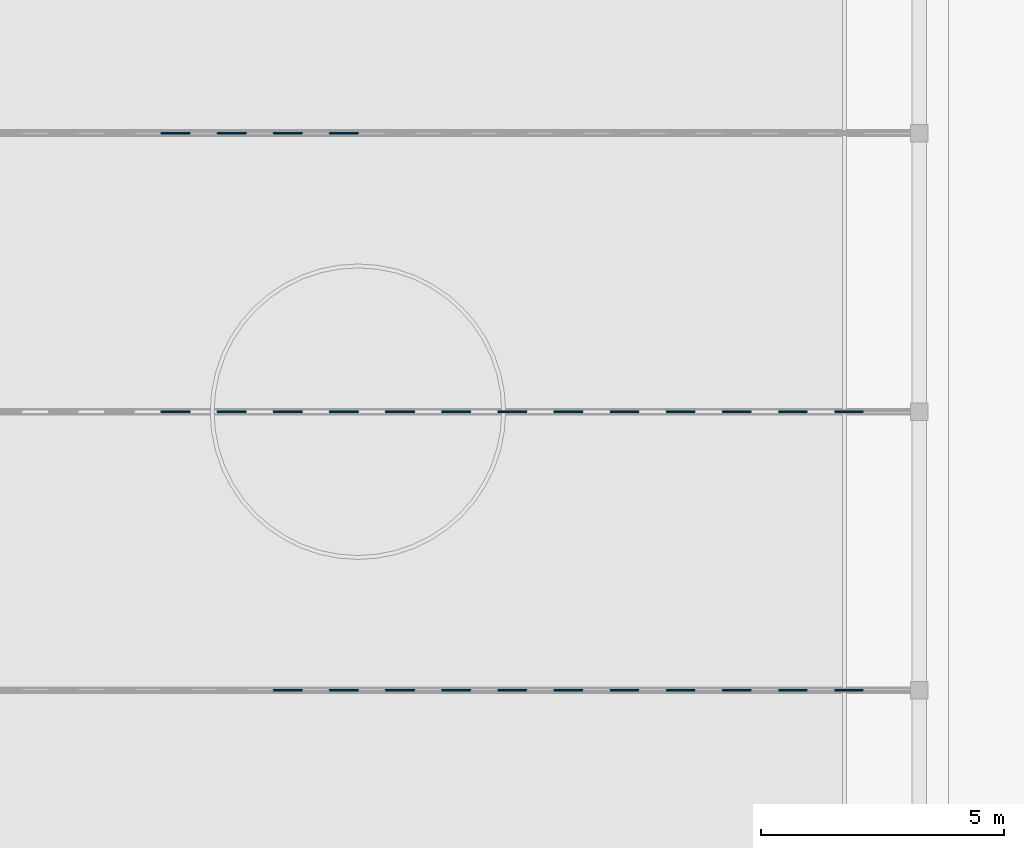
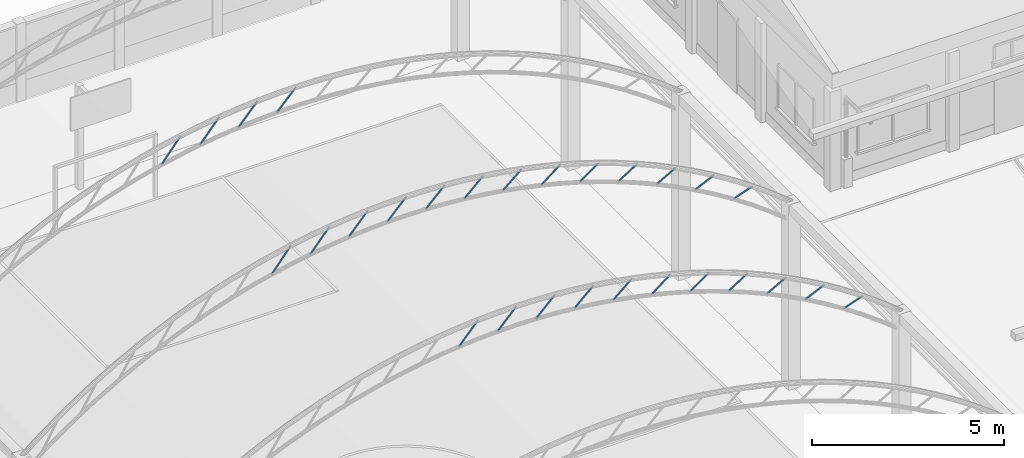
# One storey, part 36 of 177: 28 beams.
"""IFC4 building model written with IfcOpenShell, lengths in metres."""

import ifcopenshell
import ifcopenshell.guid

model = None  # the IFC model being written
_history = None  # IfcOwnerHistory: only IFC2X3 demands one
_inside = {}  # id of a spatial element -> (the spatial element, [elements in it])
_under = {}  # id of a project, library or spatial element -> (it, [spatial elements below it])
_declared = {}  # id of a project -> (the project, [libraries it declares])
_typed = {}  # id of a type object -> (the type object, [elements of that type])
_made_of = {}  # id of a material, layer set ... -> (it, [elements and type objects made of it])


def new_model(schema):
    """Start an empty IFC model of exactly this schema.

    Asked for "IFC4X3", IfcOpenShell would pick the latest addendum, in which some entities
    have other attributes; the version numbers below select the first issue.
    IFC2X3 requires an IfcOwnerHistory on every rooted entity: one is made here for all.
    """
    global model, _history
    if schema == "IFC4X3":
        model = ifcopenshell.file(schema_version=(4, 3, 0, 0))
    else:
        model = ifcopenshell.file(schema=schema)
    _inside.clear()
    _under.clear()
    _declared.clear()
    _typed.clear()
    _made_of.clear()
    _history = None
    if model.schema == "IFC2X3":
        org = make("IfcOrganization", Name="unknown")
        user = make(
            "IfcPersonAndOrganization",
            ThePerson=make("IfcPerson", FamilyName="unknown"),
            TheOrganization=org,
        )
        app = make(
            "IfcApplication",
            ApplicationDeveloper=org,
            Version="unknown",
            ApplicationFullName="unknown",
            ApplicationIdentifier="unknown",
        )
        _history = make(
            "IfcOwnerHistory",
            OwningUser=user,
            OwningApplication=app,
            ChangeAction="ADDED",
            CreationDate=0,
        )
    return model


def make(cls, **values):
    """One entity of the class cls with the attributes given. An attribute that is None is left unset."""
    return model.create_entity(
        cls, **{name: value for name, value in values.items() if value is not None}
    )


def rooted(cls, **values):
    """An entity with a GlobalId (a new one), such as an element, a storey or a relation."""
    return make(cls, GlobalId=ifcopenshell.guid.new(), OwnerHistory=_history, **values)


def si_unit(unit_type, name, prefix=None):
    """IfcSIUnit, for example si_unit("LENGTHUNIT", "METRE", prefix="MILLI")."""
    return make("IfcSIUnit", UnitType=unit_type, Prefix=prefix, Name=name)


def assignment(units):
    """IfcUnitAssignment: the units of a project."""
    return None if units is None else make("IfcUnitAssignment", Units=units)


def point(xyz):
    """IfcCartesianPoint."""
    return None if xyz is None else make("IfcCartesianPoint", Coordinates=xyz)


def direction(xyz):
    """IfcDirection."""
    return None if xyz is None else make("IfcDirection", DirectionRatios=xyz)


def frame(location, z_axis=None, x_axis=None):
    """IfcAxis2Placement3D, a coordinate frame: its origin and axes. An axis left out is left unset."""
    return make(
        "IfcAxis2Placement3D",
        Location=point(location),
        Axis=direction(z_axis),
        RefDirection=direction(x_axis),
    )


def origin():
    """The frame at (0, 0, 0) with its axes left unset."""
    return frame((0.0, 0.0, 0.0))


def origin_with_axes():
    """The frame at (0, 0, 0) with the z axis (0, 0, 1) and the x axis (1, 0, 0) written out."""
    return frame((0.0, 0.0, 0.0), z_axis=(0.0, 0.0, 1.0), x_axis=(1.0, 0.0, 0.0))


def place(relative_to, where):
    """IfcLocalPlacement: puts the frame where relative to a parent placement (None: the world)."""
    return make(
        "IfcLocalPlacement", PlacementRelTo=relative_to, RelativePlacement=where
    )


def context(
    kind, dimensions, precision=None, world=None, true_north=None, identifier=None
):
    """IfcGeometricRepresentationContext, for example the 3D "Model" context."""
    return make(
        "IfcGeometricRepresentationContext",
        ContextIdentifier=identifier,
        ContextType=kind,
        CoordinateSpaceDimension=dimensions,
        Precision=precision,
        WorldCoordinateSystem=world,
        TrueNorth=true_north,
    )


def subcontext(parent, identifier, kind, view, scale=None):
    """IfcGeometricRepresentationSubContext, for example "Body" below "Model"."""
    return make(
        "IfcGeometricRepresentationSubContext",
        ContextIdentifier=identifier,
        ContextType=kind,
        ParentContext=parent,
        TargetScale=scale,
        TargetView=view,
    )


def project(units=None, contexts=None):
    """IfcProject with its units and contexts."""
    return rooted(
        "IfcProject",
        Name="project",
        RepresentationContexts=contexts,
        UnitsInContext=assignment(units),
    )


def spatial(cls, under=None, at=None, **own):
    """A site, building, storey or space (cls), placed at a placement, below another one or the project."""
    s = rooted(cls, ObjectPlacement=at, **own)
    if under is not None:
        _under.setdefault(under.id(), (under, []))[1].append(s)
    return s


def point_list(points):
    """IfcCartesianPointList2D or 3D."""
    cls = (
        "IfcCartesianPointList2D" if len(points[0]) == 2 else "IfcCartesianPointList3D"
    )
    return make(cls, CoordList=points)


def triangles(points, corners, closed=None, point_numbers=None):
    """IfcTriangulatedFaceSet: each triangle names its three corners, points numbered from 1."""
    return make(
        "IfcTriangulatedFaceSet",
        Coordinates=point_list(points),
        Closed=closed,
        CoordIndex=corners,
        PnIndex=point_numbers,
    )


def shape(context_of_items, identifier, shape_type, items):
    """IfcShapeRepresentation: the items that make up one representation, for example the "Body"."""
    return make(
        "IfcShapeRepresentation",
        ContextOfItems=context_of_items,
        RepresentationIdentifier=identifier,
        RepresentationType=shape_type,
        Items=items,
    )


def made_of(thing, what):
    """Note that an element or type object is made of a material, layer set ...; save() writes the relation."""
    if what is not None:
        _made_of.setdefault(what.id(), (what, []))[1].append(thing)
    return thing


def element(
    cls,
    number,
    at=None,
    inside=None,
    cuts=None,
    type_object=None,
    material=None,
    context=None,
    identifier="Body",
    shape_type=None,
    held_by="IfcProductDefinitionShape",
    body=None,
    shapes=None,
    **own,
):
    """One element of the class cls, such as IfcWall. Its Tag is "e" and its number.

    at: its placement. inside: the storey or other place that contains it. cuts: it is an
    opening in that element (IfcRelVoidsElement). A single representation is given by context,
    identifier, shape_type and body (its items); several are given by shapes. held_by: the class
    of the entity that holds the representations. save() writes the other relations.
    """
    e = rooted(cls, Tag="e%d" % number, ObjectPlacement=at, **own)
    if body is not None:
        shapes = [shape(context, identifier, shape_type, body)]
    if shapes is not None:
        e.Representation = make(held_by, Representations=shapes)
    if inside is not None:
        _inside.setdefault(inside.id(), (inside, []))[1].append(e)
    if cuts is not None:
        rooted(
            "IfcRelVoidsElement", RelatingBuildingElement=cuts, RelatedOpeningElement=e
        )
    if type_object is not None:
        _typed.setdefault(type_object.id(), (type_object, []))[1].append(e)
    return made_of(e, material)


def aggregate(whole, parts):
    """IfcRelAggregates: a whole, such as a stair, and the parts it consists of."""
    return rooted("IfcRelAggregates", RelatingObject=whole, RelatedObjects=parts)


def save(model, path):
    """Write the relations noted so far, then the file.

    IfcRelAggregates (storeys below a building ...), IfcRelContainedInSpatialStructure (elements
    in a storey), IfcRelDefinesByType, IfcRelAssociatesMaterial and IfcRelDeclares: one each for
    every whole, place, type object, material and project.
    """
    for whole, parts in _under.values():
        aggregate(whole, parts)
    for where, things in _inside.values():
        rooted(
            "IfcRelContainedInSpatialStructure",
            RelatedElements=things,
            RelatingStructure=where,
        )
    for kind, things in _typed.values():
        rooted("IfcRelDefinesByType", RelatedObjects=things, RelatingType=kind)
    for what, things in _made_of.values():
        rooted("IfcRelAssociatesMaterial", RelatedObjects=things, RelatingMaterial=what)
    for by, libraries in _declared.values():
        rooted("IfcRelDeclares", RelatingContext=by, RelatedDefinitions=libraries)
    model.write(path)


model = new_model("IFC4")

# Units and contexts
model_context = context("Model", 3, precision=1e-05, world=origin_with_axes())
body_context = subcontext(model_context, "Body", "Model", "MODEL_VIEW")
ifc_project = project(units=[si_unit("LENGTHUNIT", "METRE"), si_unit("AREAUNIT", "SQUARE_METRE"), si_unit("VOLUMEUNIT", "CUBIC_METRE"), si_unit("PLANEANGLEUNIT", "RADIAN")], contexts=[model_context])

# Site, building, storey
site_placement = place(None, origin_with_axes())
site = spatial("IfcSite", under=ifc_project, at=site_placement, Name="Predio Los Mangos - Morales, San Martín", CompositionType="ELEMENT")
building_placement = place(site_placement, origin())
building = spatial("IfcBuilding", under=site, at=building_placement, Name="Hogar de Refugio Temporal", CompositionType="ELEMENT")
storey_placement = place(building_placement, origin())
storey = spatial("IfcBuildingStorey", under=building, at=storey_placement, Name="NIVEL 1 (NPT +0.00)", CompositionType="ELEMENT", Elevation=0.0)

# Beams
beam_1_placement = place(storey_placement, origin())
element("IfcBeam", 1, at=beam_1_placement, inside=storey, Name="diag", ObjectType="Viga", PredefinedType="BEAM", context=body_context, shape_type="Tessellation", body=[
    triangles([(13.3082, 104.0883, 9.4747), (13.3014, 104.0792, 9.4808), (13.2989, 104.0667, 9.483), (13.3014, 104.0542, 9.4808), (13.3082, 104.045, 9.4747), (13.3175, 104.0417, 9.4663), (13.3268, 104.045, 9.458), (13.3336, 104.0542, 9.4519), (13.3361, 104.0667, 9.4497), (13.3336, 104.0792, 9.4519), (13.3268, 104.0883, 9.458), (13.3175, 104.0917, 9.4663), (13.8857, 104.0883, 10.1212), (13.8789, 104.0792, 10.1273), (13.8764, 104.0667, 10.1295), (13.8789, 104.0542, 10.1273), (13.8857, 104.045, 10.1212), (13.895, 104.0417, 10.1129), (13.9043, 104.045, 10.1045), (13.9111, 104.0542, 10.0984), (13.9136, 104.0667, 10.0962), (13.9111, 104.0792, 10.0984), (13.9043, 104.0883, 10.1045), (13.895, 104.0917, 10.1129)], [[1, 13, 24], [1, 24, 12], [2, 14, 13], [2, 13, 1], [3, 15, 14], [3, 14, 2], [4, 16, 15], [4, 15, 3], [5, 17, 16], [5, 16, 4], [6, 18, 17], [6, 17, 5], [7, 19, 18], [7, 18, 6], [8, 20, 19], [8, 19, 7], [9, 21, 20], [9, 20, 8], [10, 22, 21], [10, 21, 9], [11, 23, 22], [11, 22, 10], [12, 24, 23], [12, 23, 11]]),
])
beam_2_placement = place(storey_placement, origin())
element("IfcBeam", 2, at=beam_2_placement, inside=storey, Name="diag", ObjectType="Viga", PredefinedType="BEAM", context=body_context, shape_type="Tessellation", body=[
    triangles([(14.4634, 104.0883, 9.5493), (14.4568, 104.0792, 9.5556), (14.4544, 104.0667, 9.5579), (14.4568, 104.0542, 9.5556), (14.4634, 104.045, 9.5493), (14.4725, 104.0417, 9.5407), (14.4816, 104.045, 9.5321), (14.4882, 104.0542, 9.5258), (14.4906, 104.0667, 9.5235), (14.4882, 104.0792, 9.5258), (14.4816, 104.0883, 9.5321), (14.4725, 104.0917, 9.5407), (15.0409, 104.0883, 10.1586), (15.0343, 104.0792, 10.1649), (15.0319, 104.0667, 10.1672), (15.0343, 104.0542, 10.1649), (15.0409, 104.045, 10.1586), (15.05, 104.0417, 10.15), (15.0591, 104.045, 10.1414), (15.0657, 104.0542, 10.1351), (15.0681, 104.0667, 10.1328), (15.0657, 104.0792, 10.1351), (15.0591, 104.0883, 10.1414), (15.05, 104.0917, 10.15)], [[1, 13, 24], [1, 24, 12], [2, 14, 13], [2, 13, 1], [3, 15, 14], [3, 14, 2], [4, 16, 15], [4, 15, 3], [5, 17, 16], [5, 16, 4], [6, 18, 17], [6, 17, 5], [7, 19, 18], [7, 18, 6], [8, 20, 19], [8, 19, 7], [9, 21, 20], [9, 20, 8], [10, 22, 21], [10, 21, 9], [11, 23, 22], [11, 22, 10], [12, 24, 23], [12, 23, 11]]),
])
beam_3_placement = place(storey_placement, origin())
element("IfcBeam", 3, at=beam_3_placement, inside=storey, Name="diag", ObjectType="Viga", PredefinedType="BEAM", context=body_context, shape_type="Tessellation", body=[
    triangles([(15.6187, 104.0883, 9.5496), (15.6123, 104.0792, 9.5561), (15.6099, 104.0667, 9.5585), (15.6123, 104.0542, 9.5561), (15.6187, 104.045, 9.5496), (15.6275, 104.0417, 9.5407), (15.6363, 104.045, 9.5318), (15.6427, 104.0542, 9.5253), (15.6451, 104.0667, 9.523), (15.6427, 104.0792, 9.5253), (15.6363, 104.0883, 9.5318), (15.6275, 104.0917, 9.5407), (16.1962, 104.0883, 10.1217), (16.1898, 104.0792, 10.1282), (16.1874, 104.0667, 10.1306), (16.1898, 104.0542, 10.1282), (16.1962, 104.045, 10.1217), (16.205, 104.0417, 10.1129), (16.2138, 104.045, 10.104), (16.2202, 104.0542, 10.0975), (16.2226, 104.0667, 10.0951), (16.2202, 104.0792, 10.0975), (16.2138, 104.0883, 10.104), (16.205, 104.0917, 10.1129)], [[1, 13, 24], [1, 24, 12], [2, 14, 13], [2, 13, 1], [3, 15, 14], [3, 14, 2], [4, 16, 15], [4, 15, 3], [5, 17, 16], [5, 16, 4], [6, 18, 17], [6, 17, 5], [7, 19, 18], [7, 18, 6], [8, 20, 19], [8, 19, 7], [9, 21, 20], [9, 20, 8], [10, 22, 21], [10, 21, 9], [11, 23, 22], [11, 22, 10], [12, 24, 23], [12, 23, 11]]),
])
beam_4_placement = place(storey_placement, origin())
element("IfcBeam", 4, at=beam_4_placement, inside=storey, Name="diag", ObjectType="Viga", PredefinedType="BEAM", context=body_context, shape_type="Tessellation", body=[
    triangles([(16.774, 104.0883, 9.4755), (16.7678, 104.0792, 9.4822), (16.7655, 104.0667, 9.4847), (16.7678, 104.0542, 9.4822), (16.774, 104.045, 9.4755), (16.7825, 104.0417, 9.4663), (16.791, 104.045, 9.4572), (16.7972, 104.0542, 9.4505), (16.7995, 104.0667, 9.448), (16.7972, 104.0792, 9.4505), (16.791, 104.0883, 9.4572), (16.7825, 104.0917, 9.4663), (17.3515, 104.0883, 10.0102), (17.3453, 104.0792, 10.0169), (17.343, 104.0667, 10.0193), (17.3453, 104.0542, 10.0169), (17.3515, 104.045, 10.0102), (17.36, 104.0417, 10.001), (17.3685, 104.045, 9.9918), (17.3747, 104.0542, 9.9851), (17.377, 104.0667, 9.9827), (17.3747, 104.0792, 9.9851), (17.3685, 104.0883, 9.9918), (17.36, 104.0917, 10.001)], [[1, 13, 24], [1, 24, 12], [2, 14, 13], [2, 13, 1], [3, 15, 14], [3, 14, 2], [4, 16, 15], [4, 15, 3], [5, 17, 16], [5, 16, 4], [6, 18, 17], [6, 17, 5], [7, 19, 18], [7, 18, 6], [8, 20, 19], [8, 19, 7], [9, 21, 20], [9, 20, 8], [10, 22, 21], [10, 21, 9], [11, 23, 22], [11, 22, 10], [12, 24, 23], [12, 23, 11]]),
])
beam_5_placement = place(storey_placement, origin())
element("IfcBeam", 5, at=beam_5_placement, inside=storey, Name="diag", ObjectType="Viga", PredefinedType="BEAM", context=body_context, shape_type="Tessellation", body=[
    triangles([(17.9294, 104.0883, 9.3261), (17.9234, 104.0792, 9.3331), (17.9212, 104.0667, 9.3356), (17.9234, 104.0542, 9.3331), (17.9294, 104.045, 9.3261), (17.9375, 104.0417, 9.3166), (17.9456, 104.045, 9.3072), (17.9516, 104.0542, 9.3002), (17.9538, 104.0667, 9.2977), (17.9516, 104.0792, 9.3002), (17.9456, 104.0883, 9.3072), (17.9375, 104.0917, 9.3166), (18.5069, 104.0883, 9.8225), (18.5009, 104.0792, 9.8294), (18.4987, 104.0667, 9.8319), (18.5009, 104.0542, 9.8294), (18.5069, 104.045, 9.8225), (18.515, 104.0417, 9.813), (18.5231, 104.045, 9.8035), (18.5291, 104.0542, 9.7966), (18.5313, 104.0667, 9.794), (18.5291, 104.0792, 9.7966), (18.5231, 104.0883, 9.8035), (18.515, 104.0917, 9.813)], [[1, 13, 24], [1, 24, 12], [2, 14, 13], [2, 13, 1], [3, 15, 14], [3, 14, 2], [4, 16, 15], [4, 15, 3], [5, 17, 16], [5, 16, 4], [6, 18, 17], [6, 17, 5], [7, 19, 18], [7, 18, 6], [8, 20, 19], [8, 19, 7], [9, 21, 20], [9, 20, 8], [10, 22, 21], [10, 21, 9], [11, 23, 22], [11, 22, 10], [12, 24, 23], [12, 23, 11]]),
])
beam_6_placement = place(storey_placement, origin())
element("IfcBeam", 6, at=beam_6_placement, inside=storey, Name="diag", ObjectType="Viga", PredefinedType="BEAM", context=body_context, shape_type="Tessellation", body=[
    triangles([(19.0847, 104.0883, 9.0995), (19.0791, 104.0792, 9.1067), (19.077, 104.0667, 9.1093), (19.0791, 104.0542, 9.1067), (19.0847, 104.045, 9.0995), (19.0925, 104.0417, 9.0897), (19.1003, 104.045, 9.0799), (19.1059, 104.0542, 9.0727), (19.108, 104.0667, 9.0701), (19.1059, 104.0792, 9.0727), (19.1003, 104.0883, 9.0799), (19.0925, 104.0917, 9.0897), (19.6622, 104.0883, 9.5562), (19.6566, 104.0792, 9.5633), (19.6545, 104.0667, 9.566), (19.6566, 104.0542, 9.5633), (19.6622, 104.045, 9.5562), (19.67, 104.0417, 9.5463), (19.6778, 104.045, 9.5365), (19.6834, 104.0542, 9.5294), (19.6855, 104.0667, 9.5267), (19.6834, 104.0792, 9.5294), (19.6778, 104.0883, 9.5365), (19.67, 104.0917, 9.5463)], [[1, 13, 24], [1, 24, 12], [2, 14, 13], [2, 13, 1], [3, 15, 14], [3, 14, 2], [4, 16, 15], [4, 15, 3], [5, 17, 16], [5, 16, 4], [6, 18, 17], [6, 17, 5], [7, 19, 18], [7, 18, 6], [8, 20, 19], [8, 19, 7], [9, 21, 20], [9, 20, 8], [10, 22, 21], [10, 21, 9], [11, 23, 22], [11, 22, 10], [12, 24, 23], [12, 23, 11]]),
])
beam_7_placement = place(storey_placement, origin())
element("IfcBeam", 7, at=beam_7_placement, inside=storey, Name="diag", ObjectType="Viga", PredefinedType="BEAM", context=body_context, shape_type="Tessellation", body=[
    triangles([(20.2402, 104.0883, 8.7926), (20.2349, 104.0792, 8.8), (20.2329, 104.0667, 8.8027), (20.2349, 104.0542, 8.8), (20.2402, 104.045, 8.7926), (20.2475, 104.0417, 8.7824), (20.2548, 104.045, 8.7723), (20.2601, 104.0542, 8.7649), (20.2621, 104.0667, 8.7621), (20.2601, 104.0792, 8.7649), (20.2548, 104.0883, 8.7723), (20.2475, 104.0917, 8.7824), (20.8177, 104.0883, 9.2075), (20.8124, 104.0792, 9.215), (20.8104, 104.0667, 9.2177), (20.8124, 104.0542, 9.215), (20.8177, 104.045, 9.2075), (20.825, 104.0417, 9.1974), (20.8323, 104.045, 9.1872), (20.8376, 104.0542, 9.1798), (20.8396, 104.0667, 9.1771), (20.8376, 104.0792, 9.1798), (20.8323, 104.0883, 9.1872), (20.825, 104.0917, 9.1974)], [[1, 13, 24], [1, 24, 12], [2, 14, 13], [2, 13, 1], [3, 15, 14], [3, 14, 2], [4, 16, 15], [4, 15, 3], [5, 17, 16], [5, 16, 4], [6, 18, 17], [6, 17, 5], [7, 19, 18], [7, 18, 6], [8, 20, 19], [8, 19, 7], [9, 21, 20], [9, 20, 8], [10, 22, 21], [10, 21, 9], [11, 23, 22], [11, 22, 10], [12, 24, 23], [12, 23, 11]]),
])
beam_8_placement = place(storey_placement, origin())
element("IfcBeam", 8, at=beam_8_placement, inside=storey, Name="diag", ObjectType="Viga", PredefinedType="BEAM", context=body_context, shape_type="Tessellation", body=[
    triangles([(21.3958, 104.0883, 8.401), (21.3908, 104.0792, 8.4087), (21.389, 104.0667, 8.4115), (21.3908, 104.0542, 8.4087), (21.3958, 104.045, 8.401), (21.4025, 104.0417, 8.3905), (21.4092, 104.045, 8.38), (21.4142, 104.0542, 8.3723), (21.416, 104.0667, 8.3695), (21.4142, 104.0792, 8.3723), (21.4092, 104.0883, 8.38), (21.4025, 104.0917, 8.3905), (21.9733, 104.0883, 8.7715), (21.9683, 104.0792, 8.7792), (21.9665, 104.0667, 8.782), (21.9683, 104.0542, 8.7792), (21.9733, 104.045, 8.7715), (21.98, 104.0417, 8.7609), (21.9867, 104.045, 8.7504), (21.9917, 104.0542, 8.7427), (21.9935, 104.0667, 8.7399), (21.9917, 104.0792, 8.7427), (21.9867, 104.0883, 8.7504), (21.98, 104.0917, 8.7609)], [[1, 13, 24], [1, 24, 12], [2, 14, 13], [2, 13, 1], [3, 15, 14], [3, 14, 2], [4, 16, 15], [4, 15, 3], [5, 17, 16], [5, 16, 4], [6, 18, 17], [6, 17, 5], [7, 19, 18], [7, 18, 6], [8, 20, 19], [8, 19, 7], [9, 21, 20], [9, 20, 8], [10, 22, 21], [10, 21, 9], [11, 23, 22], [11, 22, 10], [12, 24, 23], [12, 23, 11]]),
])
beam_9_placement = place(storey_placement, origin())
element("IfcBeam", 9, at=beam_9_placement, inside=storey, Name="diag", ObjectType="Viga", PredefinedType="BEAM", context=body_context, shape_type="Tessellation", body=[
    triangles([(22.5514, 104.0883, 7.9187), (22.547, 104.0792, 7.9267), (22.5453, 104.0667, 7.9296), (22.547, 104.0542, 7.9267), (22.5514, 104.045, 7.9187), (22.5575, 104.0417, 7.9077), (22.5636, 104.045, 7.8968), (22.568, 104.0542, 7.8888), (22.5697, 104.0667, 7.8859), (22.568, 104.0792, 7.8888), (22.5636, 104.0883, 7.8968), (22.5575, 104.0917, 7.9077), (23.1289, 104.0883, 8.2407), (23.1245, 104.0792, 8.2487), (23.1228, 104.0667, 8.2517), (23.1245, 104.0542, 8.2487), (23.1289, 104.045, 8.2407), (23.135, 104.0417, 8.2298), (23.1411, 104.045, 8.2189), (23.1455, 104.0542, 8.2109), (23.1472, 104.0667, 8.208), (23.1455, 104.0792, 8.2109), (23.1411, 104.0883, 8.2189), (23.135, 104.0917, 8.2298)], [[1, 13, 24], [1, 24, 12], [2, 14, 13], [2, 13, 1], [3, 15, 14], [3, 14, 2], [4, 16, 15], [4, 15, 3], [5, 17, 16], [5, 16, 4], [6, 18, 17], [6, 17, 5], [7, 19, 18], [7, 18, 6], [8, 20, 19], [8, 19, 7], [9, 21, 20], [9, 20, 8], [10, 22, 21], [10, 21, 9], [11, 23, 22], [11, 22, 10], [12, 24, 23], [12, 23, 11]]),
])
beam_10_placement = place(storey_placement, origin())
element("IfcBeam", 10, at=beam_10_placement, inside=storey, Name="diag", ObjectType="Viga", PredefinedType="BEAM", context=body_context, shape_type="Tessellation", body=[
    triangles([(23.7072, 104.0883, 7.3372), (23.7034, 104.0792, 7.3455), (23.702, 104.0667, 7.3485), (23.7034, 104.0542, 7.3455), (23.7072, 104.045, 7.3372), (23.7125, 104.0417, 7.3259), (23.7178, 104.045, 7.3145), (23.7216, 104.0542, 7.3062), (23.723, 104.0667, 7.3032), (23.7216, 104.0792, 7.3062), (23.7178, 104.0883, 7.3145), (23.7125, 104.0917, 7.3259), (24.2847, 104.0883, 7.6056), (24.2809, 104.0792, 7.6139), (24.2795, 104.0667, 7.617), (24.2809, 104.0542, 7.6139), (24.2847, 104.045, 7.6056), (24.29, 104.0417, 7.5943), (24.2953, 104.045, 7.583), (24.2991, 104.0542, 7.5747), (24.3005, 104.0667, 7.5716), (24.2991, 104.0792, 7.5747), (24.2953, 104.0883, 7.583), (24.29, 104.0917, 7.5943)], [[1, 13, 24], [1, 24, 12], [2, 14, 13], [2, 13, 1], [3, 15, 14], [3, 14, 2], [4, 16, 15], [4, 15, 3], [5, 17, 16], [5, 16, 4], [6, 18, 17], [6, 17, 5], [7, 19, 18], [7, 18, 6], [8, 20, 19], [8, 19, 7], [9, 21, 20], [9, 20, 8], [10, 22, 21], [10, 21, 9], [11, 23, 22], [11, 22, 10], [12, 24, 23], [12, 23, 11]]),
])
beam_11_placement = place(storey_placement, origin())
element("IfcBeam", 11, at=beam_11_placement, inside=storey, Name="diag", ObjectType="Viga", PredefinedType="BEAM", context=body_context, shape_type="Tessellation", body=[
    triangles([(24.8633, 104.0883, 6.6451), (24.8602, 104.0792, 6.6537), (24.859, 104.0667, 6.6569), (24.8602, 104.0542, 6.6537), (24.8633, 104.045, 6.6451), (24.8675, 104.0417, 6.6333), (24.8717, 104.045, 6.6216), (24.8748, 104.0542, 6.613), (24.876, 104.0667, 6.6098), (24.8748, 104.0792, 6.613), (24.8717, 104.0883, 6.6216), (24.8675, 104.0917, 6.6333), (25.4408, 104.0883, 6.8526), (25.4377, 104.0792, 6.8612), (25.4365, 104.0667, 6.8643), (25.4377, 104.0542, 6.8612), (25.4408, 104.045, 6.8526), (25.445, 104.0417, 6.8408), (25.4492, 104.045, 6.829), (25.4523, 104.0542, 6.8204), (25.4535, 104.0667, 6.8173), (25.4523, 104.0792, 6.8204), (25.4492, 104.0883, 6.829), (25.445, 104.0917, 6.8408)], [[1, 13, 24], [1, 24, 12], [2, 14, 13], [2, 13, 1], [3, 15, 14], [3, 14, 2], [4, 16, 15], [4, 15, 3], [5, 17, 16], [5, 16, 4], [6, 18, 17], [6, 17, 5], [7, 19, 18], [7, 18, 6], [8, 20, 19], [8, 19, 7], [9, 21, 20], [9, 20, 8], [10, 22, 21], [10, 21, 9], [11, 23, 22], [11, 22, 10], [12, 24, 23], [12, 23, 11]]),
])
beam_12_placement = place(storey_placement, origin())
element("IfcBeam", 12, at=beam_12_placement, inside=storey, Name="diag", ObjectType="Viga", PredefinedType="BEAM", context=body_context, shape_type="Tessellation", body=[
    triangles([(10.9977, 109.8217, 9.0975), (10.9906, 109.8125, 9.1032), (10.988, 109.8, 9.1053), (10.9906, 109.7875, 9.1032), (10.9977, 109.7784, 9.0975), (11.0075, 109.775, 9.0897), (11.0173, 109.7784, 9.0819), (11.0244, 109.7875, 9.0762), (11.027, 109.8, 9.0741), (11.0244, 109.8125, 9.0762), (11.0173, 109.8217, 9.0819), (11.0075, 109.825, 9.0897), (11.5752, 109.8217, 9.8208), (11.5681, 109.8125, 9.8265), (11.5655, 109.8, 9.8286), (11.5681, 109.7875, 9.8265), (11.5752, 109.7784, 9.8208), (11.585, 109.775, 9.813), (11.5948, 109.7784, 9.8052), (11.6019, 109.7875, 9.7995), (11.6045, 109.8, 9.7974), (11.6019, 109.8125, 9.7995), (11.5948, 109.8217, 9.8052), (11.585, 109.825, 9.813)], [[1, 13, 24], [1, 24, 12], [2, 14, 13], [2, 13, 1], [3, 15, 14], [3, 14, 2], [4, 16, 15], [4, 15, 3], [5, 17, 16], [5, 16, 4], [6, 18, 17], [6, 17, 5], [7, 19, 18], [7, 18, 6], [8, 20, 19], [8, 19, 7], [9, 21, 20], [9, 20, 8], [10, 22, 21], [10, 21, 9], [11, 23, 22], [11, 22, 10], [12, 24, 23], [12, 23, 11]]),
])
beam_13_placement = place(storey_placement, origin())
element("IfcBeam", 13, at=beam_13_placement, inside=storey, Name="diag", ObjectType="Viga", PredefinedType="BEAM", context=body_context, shape_type="Tessellation", body=[
    triangles([(12.1529, 109.8217, 9.3247), (12.146, 109.8125, 9.3306), (12.1434, 109.8, 9.3328), (12.146, 109.7875, 9.3306), (12.1529, 109.7784, 9.3247), (12.1625, 109.775, 9.3166), (12.1721, 109.7784, 9.3086), (12.179, 109.7875, 9.3027), (12.1816, 109.8, 9.3005), (12.179, 109.8125, 9.3027), (12.1721, 109.8217, 9.3086), (12.1625, 109.825, 9.3166), (12.7304, 109.8217, 10.0091), (12.7235, 109.8125, 10.015), (12.7209, 109.8, 10.0171), (12.7235, 109.7875, 10.015), (12.7304, 109.7784, 10.0091), (12.74, 109.775, 10.001), (12.7496, 109.7784, 9.9929), (12.7565, 109.7875, 9.987), (12.7591, 109.8, 9.9849), (12.7565, 109.8125, 9.987), (12.7496, 109.8217, 9.9929), (12.74, 109.825, 10.001)], [[1, 13, 24], [1, 24, 12], [2, 14, 13], [2, 13, 1], [3, 15, 14], [3, 14, 2], [4, 16, 15], [4, 15, 3], [5, 17, 16], [5, 16, 4], [6, 18, 17], [6, 17, 5], [7, 19, 18], [7, 18, 6], [8, 20, 19], [8, 19, 7], [9, 21, 20], [9, 20, 8], [10, 22, 21], [10, 21, 9], [11, 23, 22], [11, 22, 10], [12, 24, 23], [12, 23, 11]]),
])
beam_14_placement = place(storey_placement, origin())
element("IfcBeam", 14, at=beam_14_placement, inside=storey, Name="diag", ObjectType="Viga", PredefinedType="BEAM", context=body_context, shape_type="Tessellation", body=[
    triangles([(13.3082, 109.8217, 9.4747), (13.3014, 109.8125, 9.4808), (13.2989, 109.8, 9.483), (13.3014, 109.7875, 9.4808), (13.3082, 109.7784, 9.4747), (13.3175, 109.775, 9.4663), (13.3268, 109.7784, 9.458), (13.3336, 109.7875, 9.4519), (13.3361, 109.8, 9.4497), (13.3336, 109.8125, 9.4519), (13.3268, 109.8217, 9.458), (13.3175, 109.825, 9.4663), (13.8857, 109.8217, 10.1212), (13.8789, 109.8125, 10.1273), (13.8764, 109.8, 10.1295), (13.8789, 109.7875, 10.1273), (13.8857, 109.7784, 10.1212), (13.895, 109.775, 10.1129), (13.9043, 109.7784, 10.1045), (13.9111, 109.7875, 10.0984), (13.9136, 109.8, 10.0962), (13.9111, 109.8125, 10.0984), (13.9043, 109.8217, 10.1045), (13.895, 109.825, 10.1129)], [[1, 13, 24], [1, 24, 12], [2, 14, 13], [2, 13, 1], [3, 15, 14], [3, 14, 2], [4, 16, 15], [4, 15, 3], [5, 17, 16], [5, 16, 4], [6, 18, 17], [6, 17, 5], [7, 19, 18], [7, 18, 6], [8, 20, 19], [8, 19, 7], [9, 21, 20], [9, 20, 8], [10, 22, 21], [10, 21, 9], [11, 23, 22], [11, 22, 10], [12, 24, 23], [12, 23, 11]]),
])
beam_15_placement = place(storey_placement, origin())
element("IfcBeam", 15, at=beam_15_placement, inside=storey, Name="diag", ObjectType="Viga", PredefinedType="BEAM", context=body_context, shape_type="Tessellation", body=[
    triangles([(14.4634, 109.8217, 9.5493), (14.4568, 109.8125, 9.5556), (14.4544, 109.8, 9.5579), (14.4568, 109.7875, 9.5556), (14.4634, 109.7784, 9.5493), (14.4725, 109.775, 9.5407), (14.4816, 109.7784, 9.5321), (14.4882, 109.7875, 9.5258), (14.4906, 109.8, 9.5235), (14.4882, 109.8125, 9.5258), (14.4816, 109.8217, 9.5321), (14.4725, 109.825, 9.5407), (15.0409, 109.8217, 10.1586), (15.0343, 109.8125, 10.1649), (15.0319, 109.8, 10.1672), (15.0343, 109.7875, 10.1649), (15.0409, 109.7784, 10.1586), (15.05, 109.775, 10.15), (15.0591, 109.7784, 10.1414), (15.0657, 109.7875, 10.1351), (15.0681, 109.8, 10.1328), (15.0657, 109.8125, 10.1351), (15.0591, 109.8217, 10.1414), (15.05, 109.825, 10.15)], [[1, 13, 24], [1, 24, 12], [2, 14, 13], [2, 13, 1], [3, 15, 14], [3, 14, 2], [4, 16, 15], [4, 15, 3], [5, 17, 16], [5, 16, 4], [6, 18, 17], [6, 17, 5], [7, 19, 18], [7, 18, 6], [8, 20, 19], [8, 19, 7], [9, 21, 20], [9, 20, 8], [10, 22, 21], [10, 21, 9], [11, 23, 22], [11, 22, 10], [12, 24, 23], [12, 23, 11]]),
])
beam_16_placement = place(storey_placement, origin())
element("IfcBeam", 16, at=beam_16_placement, inside=storey, Name="diag", ObjectType="Viga", PredefinedType="BEAM", context=body_context, shape_type="Tessellation", body=[
    triangles([(15.6187, 109.8217, 9.5496), (15.6123, 109.8125, 9.5561), (15.6099, 109.8, 9.5585), (15.6123, 109.7875, 9.5561), (15.6187, 109.7784, 9.5496), (15.6275, 109.775, 9.5407), (15.6363, 109.7784, 9.5318), (15.6427, 109.7875, 9.5253), (15.6451, 109.8, 9.523), (15.6427, 109.8125, 9.5253), (15.6363, 109.8217, 9.5318), (15.6275, 109.825, 9.5407), (16.1962, 109.8217, 10.1217), (16.1898, 109.8125, 10.1282), (16.1874, 109.8, 10.1306), (16.1898, 109.7875, 10.1282), (16.1962, 109.7784, 10.1217), (16.205, 109.775, 10.1129), (16.2138, 109.7784, 10.104), (16.2202, 109.7875, 10.0975), (16.2226, 109.8, 10.0951), (16.2202, 109.8125, 10.0975), (16.2138, 109.8217, 10.104), (16.205, 109.825, 10.1129)], [[1, 13, 24], [1, 24, 12], [2, 14, 13], [2, 13, 1], [3, 15, 14], [3, 14, 2], [4, 16, 15], [4, 15, 3], [5, 17, 16], [5, 16, 4], [6, 18, 17], [6, 17, 5], [7, 19, 18], [7, 18, 6], [8, 20, 19], [8, 19, 7], [9, 21, 20], [9, 20, 8], [10, 22, 21], [10, 21, 9], [11, 23, 22], [11, 22, 10], [12, 24, 23], [12, 23, 11]]),
])
beam_17_placement = place(storey_placement, origin())
element("IfcBeam", 17, at=beam_17_placement, inside=storey, Name="diag", ObjectType="Viga", PredefinedType="BEAM", context=body_context, shape_type="Tessellation", body=[
    triangles([(16.774, 109.8217, 9.4755), (16.7678, 109.8125, 9.4822), (16.7655, 109.8, 9.4847), (16.7678, 109.7875, 9.4822), (16.774, 109.7784, 9.4755), (16.7825, 109.775, 9.4663), (16.791, 109.7784, 9.4572), (16.7972, 109.7875, 9.4505), (16.7995, 109.8, 9.448), (16.7972, 109.8125, 9.4505), (16.791, 109.8217, 9.4572), (16.7825, 109.825, 9.4663), (17.3515, 109.8217, 10.0102), (17.3453, 109.8125, 10.0169), (17.343, 109.8, 10.0193), (17.3453, 109.7875, 10.0169), (17.3515, 109.7784, 10.0102), (17.36, 109.775, 10.001), (17.3685, 109.7784, 9.9918), (17.3747, 109.7875, 9.9851), (17.377, 109.8, 9.9827), (17.3747, 109.8125, 9.9851), (17.3685, 109.8217, 9.9918), (17.36, 109.825, 10.001)], [[1, 13, 24], [1, 24, 12], [2, 14, 13], [2, 13, 1], [3, 15, 14], [3, 14, 2], [4, 16, 15], [4, 15, 3], [5, 17, 16], [5, 16, 4], [6, 18, 17], [6, 17, 5], [7, 19, 18], [7, 18, 6], [8, 20, 19], [8, 19, 7], [9, 21, 20], [9, 20, 8], [10, 22, 21], [10, 21, 9], [11, 23, 22], [11, 22, 10], [12, 24, 23], [12, 23, 11]]),
])
beam_18_placement = place(storey_placement, origin())
element("IfcBeam", 18, at=beam_18_placement, inside=storey, Name="diag", ObjectType="Viga", PredefinedType="BEAM", context=body_context, shape_type="Tessellation", body=[
    triangles([(17.9294, 109.8217, 9.3261), (17.9234, 109.8125, 9.3331), (17.9212, 109.8, 9.3356), (17.9234, 109.7875, 9.3331), (17.9294, 109.7784, 9.3261), (17.9375, 109.775, 9.3166), (17.9456, 109.7784, 9.3072), (17.9516, 109.7875, 9.3002), (17.9538, 109.8, 9.2977), (17.9516, 109.8125, 9.3002), (17.9456, 109.8217, 9.3072), (17.9375, 109.825, 9.3166), (18.5069, 109.8217, 9.8225), (18.5009, 109.8125, 9.8294), (18.4987, 109.8, 9.8319), (18.5009, 109.7875, 9.8294), (18.5069, 109.7784, 9.8225), (18.515, 109.775, 9.813), (18.5231, 109.7784, 9.8035), (18.5291, 109.7875, 9.7966), (18.5313, 109.8, 9.794), (18.5291, 109.8125, 9.7966), (18.5231, 109.8217, 9.8035), (18.515, 109.825, 9.813)], [[1, 13, 24], [1, 24, 12], [2, 14, 13], [2, 13, 1], [3, 15, 14], [3, 14, 2], [4, 16, 15], [4, 15, 3], [5, 17, 16], [5, 16, 4], [6, 18, 17], [6, 17, 5], [7, 19, 18], [7, 18, 6], [8, 20, 19], [8, 19, 7], [9, 21, 20], [9, 20, 8], [10, 22, 21], [10, 21, 9], [11, 23, 22], [11, 22, 10], [12, 24, 23], [12, 23, 11]]),
])
beam_19_placement = place(storey_placement, origin())
element("IfcBeam", 19, at=beam_19_placement, inside=storey, Name="diag", ObjectType="Viga", PredefinedType="BEAM", context=body_context, shape_type="Tessellation", body=[
    triangles([(19.0847, 109.8217, 9.0995), (19.0791, 109.8125, 9.1067), (19.077, 109.8, 9.1093), (19.0791, 109.7875, 9.1067), (19.0847, 109.7784, 9.0995), (19.0925, 109.775, 9.0897), (19.1003, 109.7784, 9.0799), (19.1059, 109.7875, 9.0727), (19.108, 109.8, 9.0701), (19.1059, 109.8125, 9.0727), (19.1003, 109.8217, 9.0799), (19.0925, 109.825, 9.0897), (19.6622, 109.8217, 9.5562), (19.6566, 109.8125, 9.5633), (19.6545, 109.8, 9.566), (19.6566, 109.7875, 9.5633), (19.6622, 109.7784, 9.5562), (19.67, 109.775, 9.5463), (19.6778, 109.7784, 9.5365), (19.6834, 109.7875, 9.5294), (19.6855, 109.8, 9.5267), (19.6834, 109.8125, 9.5294), (19.6778, 109.8217, 9.5365), (19.67, 109.825, 9.5463)], [[1, 13, 24], [1, 24, 12], [2, 14, 13], [2, 13, 1], [3, 15, 14], [3, 14, 2], [4, 16, 15], [4, 15, 3], [5, 17, 16], [5, 16, 4], [6, 18, 17], [6, 17, 5], [7, 19, 18], [7, 18, 6], [8, 20, 19], [8, 19, 7], [9, 21, 20], [9, 20, 8], [10, 22, 21], [10, 21, 9], [11, 23, 22], [11, 22, 10], [12, 24, 23], [12, 23, 11]]),
])
beam_20_placement = place(storey_placement, origin())
element("IfcBeam", 20, at=beam_20_placement, inside=storey, Name="diag", ObjectType="Viga", PredefinedType="BEAM", context=body_context, shape_type="Tessellation", body=[
    triangles([(20.2402, 109.8217, 8.7926), (20.2349, 109.8125, 8.8), (20.2329, 109.8, 8.8027), (20.2349, 109.7875, 8.8), (20.2402, 109.7784, 8.7926), (20.2475, 109.775, 8.7824), (20.2548, 109.7784, 8.7723), (20.2601, 109.7875, 8.7649), (20.2621, 109.8, 8.7621), (20.2601, 109.8125, 8.7649), (20.2548, 109.8217, 8.7723), (20.2475, 109.825, 8.7824), (20.8177, 109.8217, 9.2075), (20.8124, 109.8125, 9.215), (20.8104, 109.8, 9.2177), (20.8124, 109.7875, 9.215), (20.8177, 109.7784, 9.2075), (20.825, 109.775, 9.1974), (20.8323, 109.7784, 9.1872), (20.8376, 109.7875, 9.1798), (20.8396, 109.8, 9.1771), (20.8376, 109.8125, 9.1798), (20.8323, 109.8217, 9.1872), (20.825, 109.825, 9.1974)], [[1, 13, 24], [1, 24, 12], [2, 14, 13], [2, 13, 1], [3, 15, 14], [3, 14, 2], [4, 16, 15], [4, 15, 3], [5, 17, 16], [5, 16, 4], [6, 18, 17], [6, 17, 5], [7, 19, 18], [7, 18, 6], [8, 20, 19], [8, 19, 7], [9, 21, 20], [9, 20, 8], [10, 22, 21], [10, 21, 9], [11, 23, 22], [11, 22, 10], [12, 24, 23], [12, 23, 11]]),
])
beam_21_placement = place(storey_placement, origin())
element("IfcBeam", 21, at=beam_21_placement, inside=storey, Name="diag", ObjectType="Viga", PredefinedType="BEAM", context=body_context, shape_type="Tessellation", body=[
    triangles([(21.3958, 109.8217, 8.401), (21.3908, 109.8125, 8.4087), (21.389, 109.8, 8.4115), (21.3908, 109.7875, 8.4087), (21.3958, 109.7784, 8.401), (21.4025, 109.775, 8.3905), (21.4092, 109.7784, 8.38), (21.4142, 109.7875, 8.3723), (21.416, 109.8, 8.3695), (21.4142, 109.8125, 8.3723), (21.4092, 109.8217, 8.38), (21.4025, 109.825, 8.3905), (21.9733, 109.8217, 8.7715), (21.9683, 109.8125, 8.7792), (21.9665, 109.8, 8.782), (21.9683, 109.7875, 8.7792), (21.9733, 109.7784, 8.7715), (21.98, 109.775, 8.7609), (21.9867, 109.7784, 8.7504), (21.9917, 109.7875, 8.7427), (21.9935, 109.8, 8.7399), (21.9917, 109.8125, 8.7427), (21.9867, 109.8217, 8.7504), (21.98, 109.825, 8.7609)], [[1, 13, 24], [1, 24, 12], [2, 14, 13], [2, 13, 1], [3, 15, 14], [3, 14, 2], [4, 16, 15], [4, 15, 3], [5, 17, 16], [5, 16, 4], [6, 18, 17], [6, 17, 5], [7, 19, 18], [7, 18, 6], [8, 20, 19], [8, 19, 7], [9, 21, 20], [9, 20, 8], [10, 22, 21], [10, 21, 9], [11, 23, 22], [11, 22, 10], [12, 24, 23], [12, 23, 11]]),
])
beam_22_placement = place(storey_placement, origin())
element("IfcBeam", 22, at=beam_22_placement, inside=storey, Name="diag", ObjectType="Viga", PredefinedType="BEAM", context=body_context, shape_type="Tessellation", body=[
    triangles([(22.5514, 109.8217, 7.9187), (22.547, 109.8125, 7.9267), (22.5453, 109.8, 7.9296), (22.547, 109.7875, 7.9267), (22.5514, 109.7784, 7.9187), (22.5575, 109.775, 7.9077), (22.5636, 109.7784, 7.8968), (22.568, 109.7875, 7.8888), (22.5697, 109.8, 7.8859), (22.568, 109.8125, 7.8888), (22.5636, 109.8217, 7.8968), (22.5575, 109.825, 7.9077), (23.1289, 109.8217, 8.2407), (23.1245, 109.8125, 8.2487), (23.1228, 109.8, 8.2517), (23.1245, 109.7875, 8.2487), (23.1289, 109.7784, 8.2407), (23.135, 109.775, 8.2298), (23.1411, 109.7784, 8.2189), (23.1455, 109.7875, 8.2109), (23.1472, 109.8, 8.208), (23.1455, 109.8125, 8.2109), (23.1411, 109.8217, 8.2189), (23.135, 109.825, 8.2298)], [[1, 13, 24], [1, 24, 12], [2, 14, 13], [2, 13, 1], [3, 15, 14], [3, 14, 2], [4, 16, 15], [4, 15, 3], [5, 17, 16], [5, 16, 4], [6, 18, 17], [6, 17, 5], [7, 19, 18], [7, 18, 6], [8, 20, 19], [8, 19, 7], [9, 21, 20], [9, 20, 8], [10, 22, 21], [10, 21, 9], [11, 23, 22], [11, 22, 10], [12, 24, 23], [12, 23, 11]]),
])
beam_23_placement = place(storey_placement, origin())
element("IfcBeam", 23, at=beam_23_placement, inside=storey, Name="diag", ObjectType="Viga", PredefinedType="BEAM", context=body_context, shape_type="Tessellation", body=[
    triangles([(23.7072, 109.8217, 7.3372), (23.7034, 109.8125, 7.3455), (23.702, 109.8, 7.3485), (23.7034, 109.7875, 7.3455), (23.7072, 109.7784, 7.3372), (23.7125, 109.775, 7.3259), (23.7178, 109.7784, 7.3145), (23.7216, 109.7875, 7.3062), (23.723, 109.8, 7.3032), (23.7216, 109.8125, 7.3062), (23.7178, 109.8217, 7.3145), (23.7125, 109.825, 7.3259), (24.2847, 109.8217, 7.6056), (24.2809, 109.8125, 7.6139), (24.2795, 109.8, 7.617), (24.2809, 109.7875, 7.6139), (24.2847, 109.7784, 7.6056), (24.29, 109.775, 7.5943), (24.2953, 109.7784, 7.583), (24.2991, 109.7875, 7.5747), (24.3005, 109.8, 7.5716), (24.2991, 109.8125, 7.5747), (24.2953, 109.8217, 7.583), (24.29, 109.825, 7.5943)], [[1, 13, 24], [1, 24, 12], [2, 14, 13], [2, 13, 1], [3, 15, 14], [3, 14, 2], [4, 16, 15], [4, 15, 3], [5, 17, 16], [5, 16, 4], [6, 18, 17], [6, 17, 5], [7, 19, 18], [7, 18, 6], [8, 20, 19], [8, 19, 7], [9, 21, 20], [9, 20, 8], [10, 22, 21], [10, 21, 9], [11, 23, 22], [11, 22, 10], [12, 24, 23], [12, 23, 11]]),
])
beam_24_placement = place(storey_placement, origin())
element("IfcBeam", 24, at=beam_24_placement, inside=storey, Name="diag", ObjectType="Viga", PredefinedType="BEAM", context=body_context, shape_type="Tessellation", body=[
    triangles([(24.8633, 109.8217, 6.6451), (24.8602, 109.8125, 6.6537), (24.859, 109.8, 6.6569), (24.8602, 109.7875, 6.6537), (24.8633, 109.7784, 6.6451), (24.8675, 109.775, 6.6333), (24.8717, 109.7784, 6.6216), (24.8748, 109.7875, 6.613), (24.876, 109.8, 6.6098), (24.8748, 109.8125, 6.613), (24.8717, 109.8217, 6.6216), (24.8675, 109.825, 6.6333), (25.4408, 109.8217, 6.8526), (25.4377, 109.8125, 6.8612), (25.4365, 109.8, 6.8643), (25.4377, 109.7875, 6.8612), (25.4408, 109.7784, 6.8526), (25.445, 109.775, 6.8408), (25.4492, 109.7784, 6.829), (25.4523, 109.7875, 6.8204), (25.4535, 109.8, 6.8173), (25.4523, 109.8125, 6.8204), (25.4492, 109.8217, 6.829), (25.445, 109.825, 6.8408)], [[1, 13, 24], [1, 24, 12], [2, 14, 13], [2, 13, 1], [3, 15, 14], [3, 14, 2], [4, 16, 15], [4, 15, 3], [5, 17, 16], [5, 16, 4], [6, 18, 17], [6, 17, 5], [7, 19, 18], [7, 18, 6], [8, 20, 19], [8, 19, 7], [9, 21, 20], [9, 20, 8], [10, 22, 21], [10, 21, 9], [11, 23, 22], [11, 22, 10], [12, 24, 23], [12, 23, 11]]),
])
beam_25_placement = place(storey_placement, origin())
element("IfcBeam", 25, at=beam_25_placement, inside=storey, Name="diag", ObjectType="Viga", PredefinedType="BEAM", context=body_context, shape_type="Tessellation", body=[
    triangles([(10.9977, 115.555, 9.0975), (10.9906, 115.5458, 9.1032), (10.988, 115.5333, 9.1053), (10.9906, 115.5208, 9.1032), (10.9977, 115.5117, 9.0975), (11.0075, 115.5083, 9.0897), (11.0173, 115.5117, 9.0819), (11.0244, 115.5208, 9.0762), (11.027, 115.5333, 9.0741), (11.0244, 115.5458, 9.0762), (11.0173, 115.555, 9.0819), (11.0075, 115.5583, 9.0897), (11.5752, 115.555, 9.8208), (11.5681, 115.5458, 9.8265), (11.5655, 115.5333, 9.8286), (11.5681, 115.5208, 9.8265), (11.5752, 115.5117, 9.8208), (11.585, 115.5083, 9.813), (11.5948, 115.5117, 9.8052), (11.6019, 115.5208, 9.7995), (11.6045, 115.5333, 9.7974), (11.6019, 115.5458, 9.7995), (11.5948, 115.555, 9.8052), (11.585, 115.5583, 9.813)], [[1, 13, 24], [1, 24, 12], [2, 14, 13], [2, 13, 1], [3, 15, 14], [3, 14, 2], [4, 16, 15], [4, 15, 3], [5, 17, 16], [5, 16, 4], [6, 18, 17], [6, 17, 5], [7, 19, 18], [7, 18, 6], [8, 20, 19], [8, 19, 7], [9, 21, 20], [9, 20, 8], [10, 22, 21], [10, 21, 9], [11, 23, 22], [11, 22, 10], [12, 24, 23], [12, 23, 11]]),
])
beam_26_placement = place(storey_placement, origin())
element("IfcBeam", 26, at=beam_26_placement, inside=storey, Name="diag", ObjectType="Viga", PredefinedType="BEAM", context=body_context, shape_type="Tessellation", body=[
    triangles([(12.1529, 115.555, 9.3247), (12.146, 115.5458, 9.3306), (12.1434, 115.5333, 9.3328), (12.146, 115.5208, 9.3306), (12.1529, 115.5117, 9.3247), (12.1625, 115.5083, 9.3166), (12.1721, 115.5117, 9.3086), (12.179, 115.5208, 9.3027), (12.1816, 115.5333, 9.3005), (12.179, 115.5458, 9.3027), (12.1721, 115.555, 9.3086), (12.1625, 115.5583, 9.3166), (12.7304, 115.555, 10.0091), (12.7235, 115.5458, 10.015), (12.7209, 115.5333, 10.0171), (12.7235, 115.5208, 10.015), (12.7304, 115.5117, 10.0091), (12.74, 115.5083, 10.001), (12.7496, 115.5117, 9.9929), (12.7565, 115.5208, 9.987), (12.7591, 115.5333, 9.9849), (12.7565, 115.5458, 9.987), (12.7496, 115.555, 9.9929), (12.74, 115.5583, 10.001)], [[1, 13, 24], [1, 24, 12], [2, 14, 13], [2, 13, 1], [3, 15, 14], [3, 14, 2], [4, 16, 15], [4, 15, 3], [5, 17, 16], [5, 16, 4], [6, 18, 17], [6, 17, 5], [7, 19, 18], [7, 18, 6], [8, 20, 19], [8, 19, 7], [9, 21, 20], [9, 20, 8], [10, 22, 21], [10, 21, 9], [11, 23, 22], [11, 22, 10], [12, 24, 23], [12, 23, 11]]),
])
beam_27_placement = place(storey_placement, origin())
element("IfcBeam", 27, at=beam_27_placement, inside=storey, Name="diag", ObjectType="Viga", PredefinedType="BEAM", context=body_context, shape_type="Tessellation", body=[
    triangles([(13.3082, 115.555, 9.4747), (13.3014, 115.5458, 9.4808), (13.2989, 115.5333, 9.483), (13.3014, 115.5208, 9.4808), (13.3082, 115.5117, 9.4747), (13.3175, 115.5083, 9.4663), (13.3268, 115.5117, 9.458), (13.3336, 115.5208, 9.4519), (13.3361, 115.5333, 9.4497), (13.3336, 115.5458, 9.4519), (13.3268, 115.555, 9.458), (13.3175, 115.5583, 9.4663), (13.8857, 115.555, 10.1212), (13.8789, 115.5458, 10.1273), (13.8764, 115.5333, 10.1295), (13.8789, 115.5208, 10.1273), (13.8857, 115.5117, 10.1212), (13.895, 115.5083, 10.1129), (13.9043, 115.5117, 10.1045), (13.9111, 115.5208, 10.0984), (13.9136, 115.5333, 10.0962), (13.9111, 115.5458, 10.0984), (13.9043, 115.555, 10.1045), (13.895, 115.5583, 10.1129)], [[1, 13, 24], [1, 24, 12], [2, 14, 13], [2, 13, 1], [3, 15, 14], [3, 14, 2], [4, 16, 15], [4, 15, 3], [5, 17, 16], [5, 16, 4], [6, 18, 17], [6, 17, 5], [7, 19, 18], [7, 18, 6], [8, 20, 19], [8, 19, 7], [9, 21, 20], [9, 20, 8], [10, 22, 21], [10, 21, 9], [11, 23, 22], [11, 22, 10], [12, 24, 23], [12, 23, 11]]),
])
beam_28_placement = place(storey_placement, origin())
element("IfcBeam", 28, at=beam_28_placement, inside=storey, Name="diag", ObjectType="Viga", PredefinedType="BEAM", context=body_context, shape_type="Tessellation", body=[
    triangles([(14.4634, 115.555, 9.5493), (14.4568, 115.5458, 9.5556), (14.4544, 115.5333, 9.5579), (14.4568, 115.5208, 9.5556), (14.4634, 115.5117, 9.5493), (14.4725, 115.5083, 9.5407), (14.4816, 115.5117, 9.5321), (14.4882, 115.5208, 9.5258), (14.4906, 115.5333, 9.5235), (14.4882, 115.5458, 9.5258), (14.4816, 115.555, 9.5321), (14.4725, 115.5583, 9.5407), (15.0409, 115.555, 10.1586), (15.0343, 115.5458, 10.1649), (15.0319, 115.5333, 10.1672), (15.0343, 115.5208, 10.1649), (15.0409, 115.5117, 10.1586), (15.05, 115.5083, 10.15), (15.0591, 115.5117, 10.1414), (15.0657, 115.5208, 10.1351), (15.0681, 115.5333, 10.1328), (15.0657, 115.5458, 10.1351), (15.0591, 115.555, 10.1414), (15.05, 115.5583, 10.15)], [[1, 13, 24], [1, 24, 12], [2, 14, 13], [2, 13, 1], [3, 15, 14], [3, 14, 2], [4, 16, 15], [4, 15, 3], [5, 17, 16], [5, 16, 4], [6, 18, 17], [6, 17, 5], [7, 19, 18], [7, 18, 6], [8, 20, 19], [8, 19, 7], [9, 21, 20], [9, 20, 8], [10, 22, 21], [10, 21, 9], [11, 23, 22], [11, 22, 10], [12, 24, 23], [12, 23, 11]]),
])

save(model, "model.ifc")
